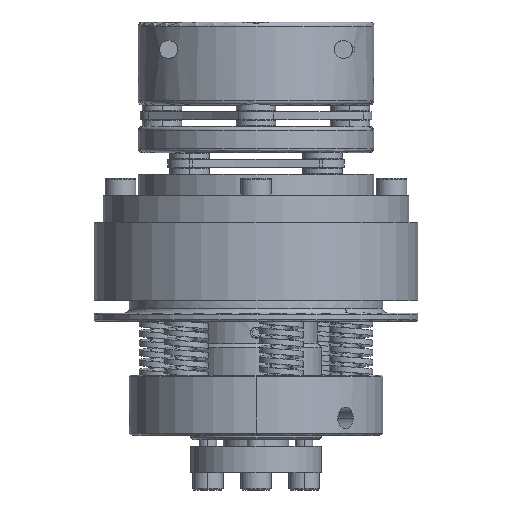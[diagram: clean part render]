
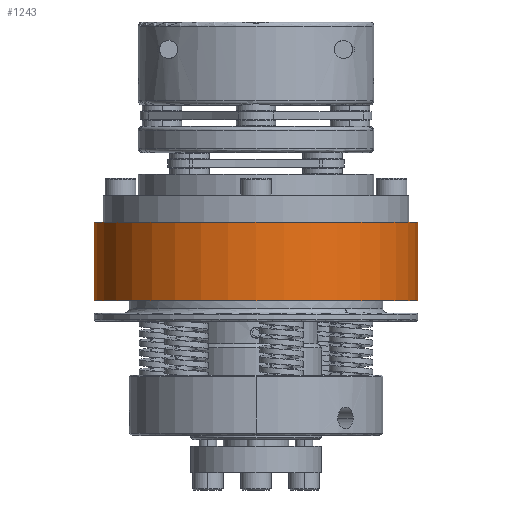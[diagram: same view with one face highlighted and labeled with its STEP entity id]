
A CAD part, front view. The second image highlights one B-rep face of the part: STEP entity #1243.
In plain terms, the highlighted cylindrical face has radius 37 mm (diameter 74 mm), a partial arc.
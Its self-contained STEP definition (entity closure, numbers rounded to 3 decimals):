
#1243 = ADVANCED_FACE ( 'NONE', ( #42655 ), #57293, .T. ) ;
#5759 = CIRCLE ( 'NONE', #47982, 37. ) ;
#11163 = LINE ( 'NONE', #72805, #20913 ) ;
#13325 = LINE ( 'NONE', #32367, #75694 ) ;
#14567 = AXIS2_PLACEMENT_3D ( 'NONE', #48573, #23764, #54871 ) ;
#15138 = DIRECTION ( 'NONE',  ( 0., 0., 1. ) ) ;
#20389 = ORIENTED_EDGE ( 'NONE', *, *, #51203, .T. ) ;
#20835 = VERTEX_POINT ( 'NONE', #74244 ) ;
#20913 = VECTOR ( 'NONE', #79351, 1000. ) ;
#22235 = DIRECTION ( 'NONE',  ( 0., 0., 1. ) ) ;
#23238 = EDGE_CURVE ( 'NONE', #80030, #49712, #11163, .T. ) ;
#23764 = DIRECTION ( 'NONE',  ( 0., 0., -1. ) ) ;
#32367 = CARTESIAN_POINT ( 'NONE',  ( 36.58, 0.175, 28.801 ) ) ;
#38209 = VERTEX_POINT ( 'NONE', #39350 ) ;
#39350 = CARTESIAN_POINT ( 'NONE',  ( 36.58, 0.175, -0.199 ) ) ;
#40552 = CARTESIAN_POINT ( 'NONE',  ( -37.42, 0.175, 17.801 ) ) ;
#42655 = FACE_OUTER_BOUND ( 'NONE', #71043, .T. ) ;
#47982 = AXIS2_PLACEMENT_3D ( 'NONE', #59925, #22235, #72141 ) ;
#48449 = EDGE_CURVE ( 'NONE', #80030, #38209, #5759, .T. ) ;
#48573 = CARTESIAN_POINT ( 'NONE',  ( -0.42, 0.175, 17.801 ) ) ;
#49712 = VERTEX_POINT ( 'NONE', #40552 ) ;
#51203 = EDGE_CURVE ( 'NONE', #38209, #20835, #13325, .T. ) ;
#54871 = DIRECTION ( 'NONE',  ( 1., 0., 0. ) ) ;
#56844 = ORIENTED_EDGE ( 'NONE', *, *, #48449, .T. ) ;
#57293 = CYLINDRICAL_SURFACE ( 'NONE', #77179, 37. ) ;
#58293 = DIRECTION ( 'NONE',  ( 0., 0., 1. ) ) ;
#58510 = CARTESIAN_POINT ( 'NONE',  ( -0.42, 0.175, 28.801 ) ) ;
#59925 = CARTESIAN_POINT ( 'NONE',  ( -0.42, 0.175, -0.199 ) ) ;
#61122 = ORIENTED_EDGE ( 'NONE', *, *, #62915, .T. ) ;
#62915 = EDGE_CURVE ( 'NONE', #20835, #49712, #80662, .T. ) ;
#70606 = ORIENTED_EDGE ( 'NONE', *, *, #23238, .F. ) ;
#71043 = EDGE_LOOP ( 'NONE', ( #70606, #56844, #20389, #61122 ) ) ;
#72141 = DIRECTION ( 'NONE',  ( 1., 0., 0. ) ) ;
#72805 = CARTESIAN_POINT ( 'NONE',  ( -37.42, 0.175, 28.801 ) ) ;
#74244 = CARTESIAN_POINT ( 'NONE',  ( 36.58, 0.175, 17.801 ) ) ;
#74686 = CARTESIAN_POINT ( 'NONE',  ( -37.42, 0.175, -0.199 ) ) ;
#75694 = VECTOR ( 'NONE', #58293, 1000. ) ;
#77179 = AXIS2_PLACEMENT_3D ( 'NONE', #58510, #15138, #77522 ) ;
#77522 = DIRECTION ( 'NONE',  ( 1., 0., 0. ) ) ;
#79351 = DIRECTION ( 'NONE',  ( 0., 0., 1. ) ) ;
#80030 = VERTEX_POINT ( 'NONE', #74686 ) ;
#80662 = CIRCLE ( 'NONE', #14567, 37. ) ;
